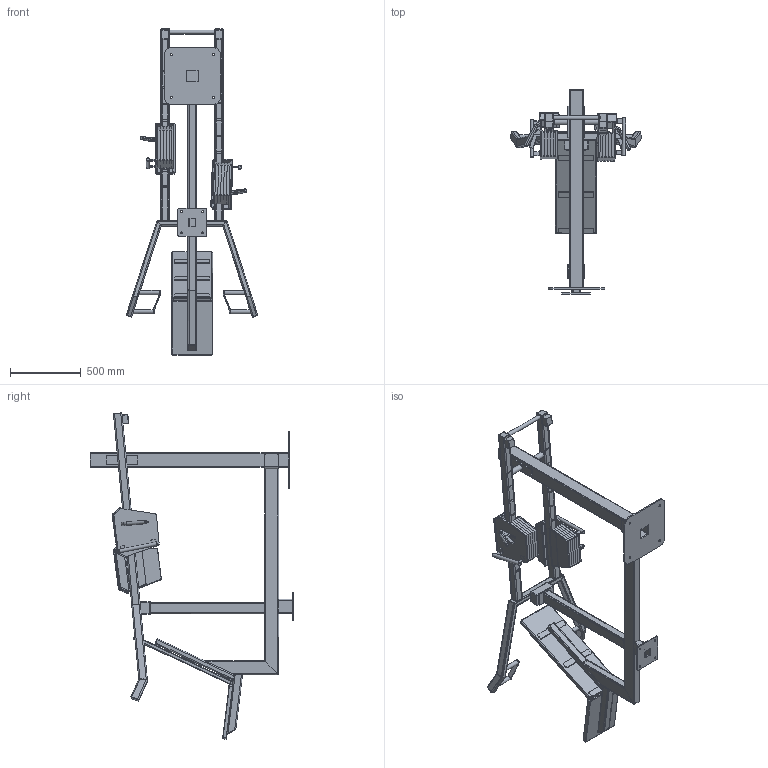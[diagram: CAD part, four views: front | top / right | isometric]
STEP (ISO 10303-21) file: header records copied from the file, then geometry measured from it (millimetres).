
FILE_DESCRIPTION(/* description */ (''),/* implementation_level */ '2;1');
FILE_NAME(/* name */ 'OG41_3D__Low.step',/* time_stamp */ '2025-11-11T16:00:58+02:00',/* author */ (''),/* organization */ (''),/* preprocessor_version */ 'ST-DEVELOPER v20.1',/* originating_system */ 'Autodesk Translation Framework v14.21.0.0',/* authorisation */ '');
FILE_SCHEMA (('AUTOMOTIVE_DESIGN { 1 0 10303 214 3 1 1 }'));
Length unit declared in the file: millimetre
Products named in the file (1): OG41_3D__Low
Bounding box: 929.25 x 1444.28 x 2312.14 mm (x, y, z)
Volume: 36033017.7 mm3; surface area: 8713204 mm2
Topology: 80 solids, 80 shells, 1475 faces, 3692 edges, 2352 vertices
Faces by surface type: plane 797, cylinder 579, torus 58, bspline 22, sphere 12, cone 7
Full cylindrical faces by diameter (mm): 12 x2, 13 x33, 14 x4, 16 x4, 25 x2, 28 x1, 28.2 x1, 29 x2, 30 x6, 31 x6, 39.8 x2, 40 x4
Entity records: 46127 total; most frequent: CARTESIAN_POINT 9563, DIRECTION 7792, ORIENTED_EDGE 7384, EDGE_CURVE 3692, AXIS2_PLACEMENT_3D 2751, VERTEX_POINT 2352, LINE 2290, VECTOR 2290
